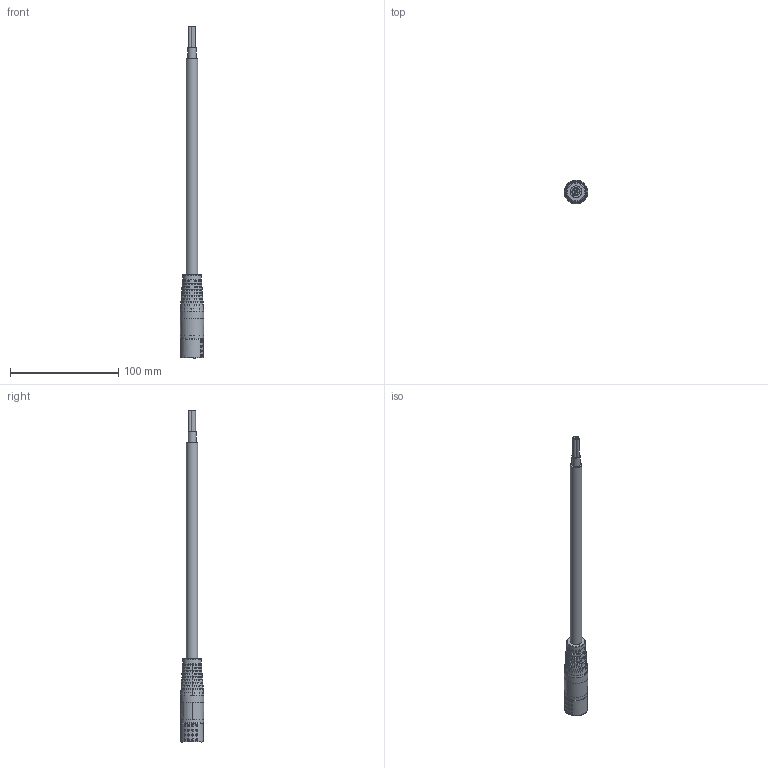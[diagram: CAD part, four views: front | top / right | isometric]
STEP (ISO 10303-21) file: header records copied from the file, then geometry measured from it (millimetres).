
FILE_DESCRIPTION (( 'STEP AP203' ), '1' );
FILE_NAME ('1135023_W-TEC_15M_GLATT_BU_STEP.STEP', '2023-09-06T10:47:32', ( '' ), ( '' ), 'SwSTEP 2.0', 'SolidWorks 2021', '' );
FILE_SCHEMA (( 'CONFIG_CONTROL_DESIGN' ));
Length unit declared in the file: millimetre
Products named in the file (1): 1135023_W-TEC_15M_GLATT_BU_STEP
Bounding box: 21.78 x 21.84 x 307.02 mm (x, y, z)
Surface area: 16921 mm2 (no closed solid volume)
Topology: 0 solids, 21 shells, 466 faces, 1868 edges, 1331 vertices
Faces by surface type: bspline 261, plane 92, cylinder 81, cone 30, torus 2
Full cylindrical faces by diameter (mm): 2.5 x3, 3.3 x6, 4.2 x3, 6.6 x1, 7.5 x1, 10.6 x1, 16.8 x1, 17.384 x1, 18.4 x1, 21.24 x1, 21.72 x1
Entity records: 37211 total; most frequent: CARTESIAN_POINT 25286, ORIENTED_EDGE 2711, EDGE_CURVE 1800, DIRECTION 1570, VERTEX_POINT 1323, B_SPLINE_CURVE_WITH_KNOTS 870, AXIS2_PLACEMENT_3D 585, EDGE_LOOP 554
